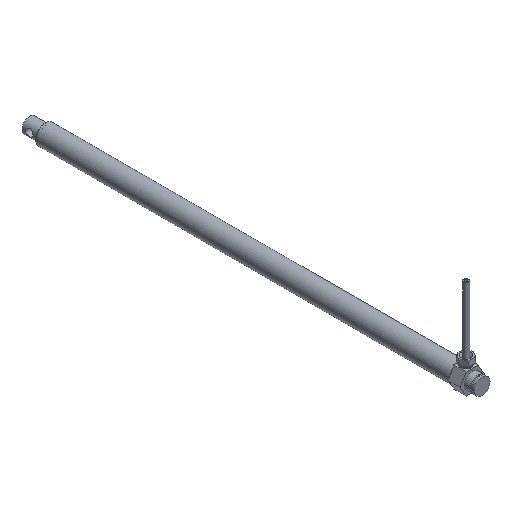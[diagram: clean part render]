
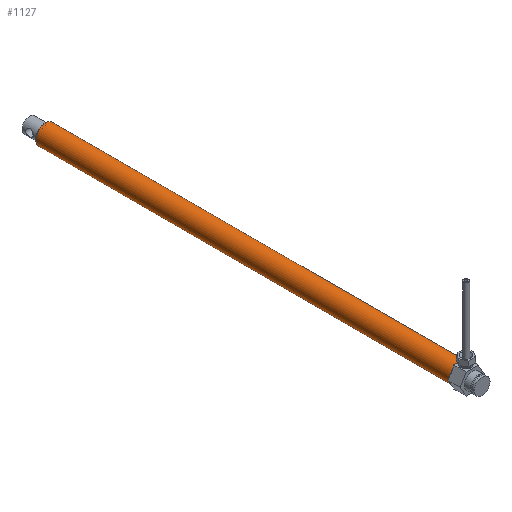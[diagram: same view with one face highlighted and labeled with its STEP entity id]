
A CAD part, isometric view. The second image highlights one B-rep face of the part: STEP entity #1127.
In plain terms, the highlighted cylindrical face has radius 8 mm (diameter 16 mm), a full revolution.
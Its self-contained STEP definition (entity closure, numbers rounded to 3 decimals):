
#181=CYLINDRICAL_SURFACE('',#1682,8.);
#216=ORIENTED_EDGE('',*,*,#457,.F.);
#217=ORIENTED_EDGE('',*,*,#461,.T.);
#457=EDGE_CURVE('',#581,#581,#689,.T.);
#461=EDGE_CURVE('',#585,#585,#693,.T.);
#581=VERTEX_POINT('',#2228);
#585=VERTEX_POINT('',#2239);
#689=CIRCLE('',#1674,8.);
#693=CIRCLE('',#1681,8.);
#768=EDGE_LOOP('',(#216));
#769=EDGE_LOOP('',(#217));
#930=FACE_BOUND('',#768,.T.);
#931=FACE_BOUND('',#769,.T.);
#1127=ADVANCED_FACE('',(#930,#931),#181,.T.);
#1674=AXIS2_PLACEMENT_3D('',#2227,#1849,#1850);
#1681=AXIS2_PLACEMENT_3D('',#2238,#1863,#1864);
#1682=AXIS2_PLACEMENT_3D('',#2240,#1865,#1866);
#1849=DIRECTION('',(-1.,0.,0.));
#1850=DIRECTION('',(0.,0.,1.));
#1863=DIRECTION('',(-1.,0.,0.));
#1864=DIRECTION('',(0.,0.,1.));
#1865=DIRECTION('',(-1.,0.,0.));
#1866=DIRECTION('',(0.,0.,1.));
#2227=CARTESIAN_POINT('',(0.,0.,0.));
#2228=CARTESIAN_POINT('',(0.,0.,8.));
#2238=CARTESIAN_POINT('',(338.,0.,0.));
#2239=CARTESIAN_POINT('',(338.,0.,8.));
#2240=CARTESIAN_POINT('',(-60.,0.,0.));
